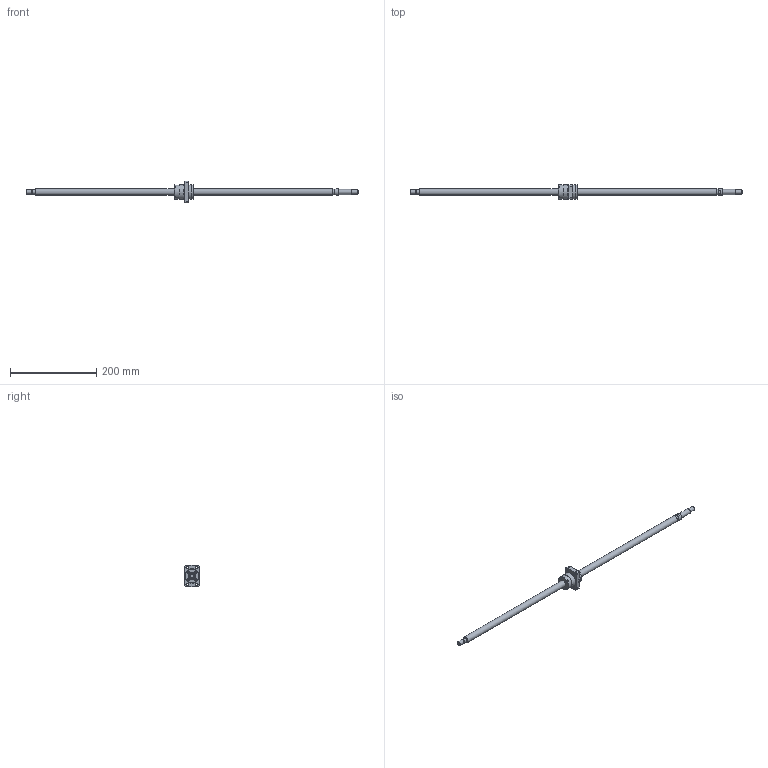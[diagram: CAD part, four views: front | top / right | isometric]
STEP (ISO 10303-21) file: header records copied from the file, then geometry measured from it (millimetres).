
FILE_DESCRIPTION(/* description */ ('STEP AP203'),/* implementation_level */ '2;1');
FILE_NAME(/* name */ 'BNK1510-5.6G0+771LC5Y(366.50)',/* time_stamp */ '2024-07-09T09:23:23+02:00',/* author */ ('License CC BY-ND 4.0'),/* organization */ ('CADENAS'),/* preprocessor_version */ 'ST-DEVELOPER v19.3',/* originating_system */ 'PARTsolutions',/* authorisation */ ' ');
FILE_SCHEMA (('CONFIG_CONTROL_DESIGN'));
Length unit declared in the file: millimetre
Products named in the file (3): BNK1510-5.6G0+771LC5Y(366.50); BNK 1510-5.6G0+771LC5Y Shaft; BNK 1510-5.6G0+771LC5Y0 Nut
Assembly tree (2 placements, depth 2):
  BNK1510-5.6G0+771LC5Y(366.50)
    BNK 1510-5.6G0+771LC5Y Shaft
    BNK 1510-5.6G0+771LC5Y0 Nut
Bounding box: 771 x 34 x 50 mm (x, y, z)
Volume: 166849.6 mm3; surface area: 47621.2 mm2
Topology: 2 solids, 2 shells, 137 faces, 313 edges, 202 vertices
Faces by surface type: plane 76, cylinder 35, cone 20, torus 6
Full cylindrical faces by diameter (mm): 5.188 x1, 5.5 x8, 9.5 x4, 9.6 x1, 10 x3, 12 x1, 13 x1, 15 x3, 30.6 x1, 33 x2, 34 x2
Entity records: 3729 total; most frequent: CARTESIAN_POINT 677, DIRECTION 632, ORIENTED_EDGE 534, EDGE_CURVE 267, AXIS2_PLACEMENT_3D 249, FACE_BOUND 211, EDGE_LOOP 210, VERTEX_POINT 198
